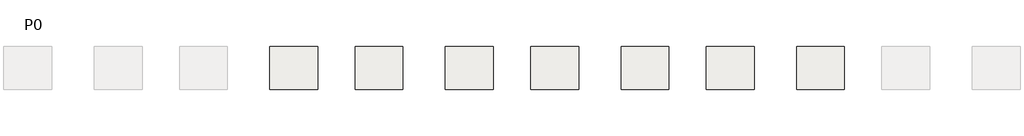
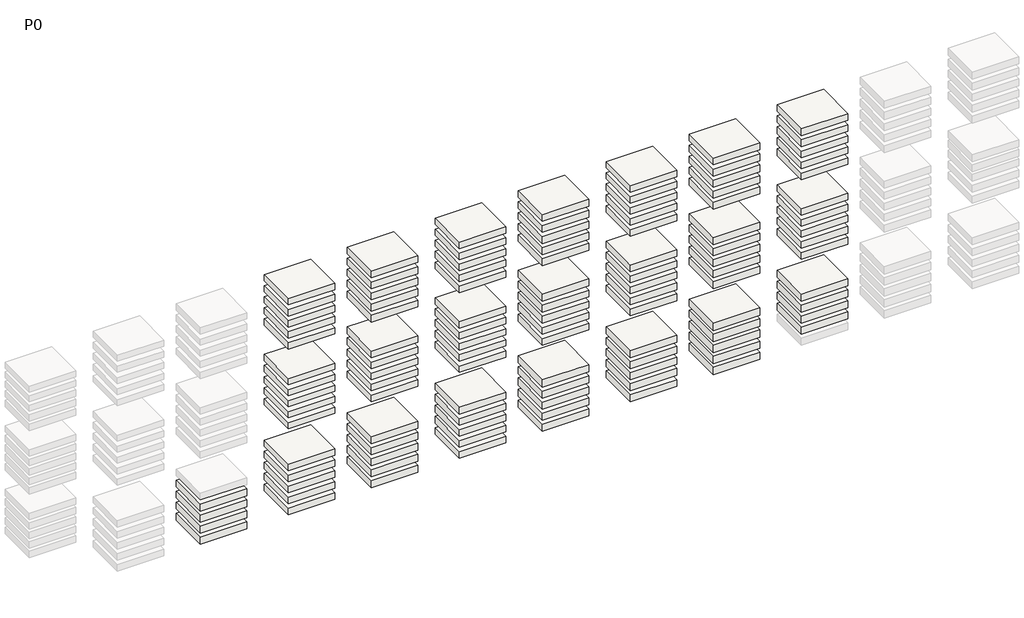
# One storey, part 8 of 11: 108 slabs.
"""IFC4 building model written with IfcOpenShell, lengths in millimetres."""

from ifc_helpers import new_model, si_unit, frame, origin, place, context, project, spatial, polyline, outline, extrude, element, save

model = new_model("IFC4")

# Units and contexts
model_context = context("Model", 3, world=origin())
ifc_project = project(units=[si_unit("LENGTHUNIT", "METRE", prefix="MILLI")], contexts=[model_context])

# Site, building, storey
site = spatial("IfcSite", under=ifc_project)
building = spatial("IfcBuilding", under=site)
storey = spatial("IfcBuildingStorey", under=building, Name="P0", Elevation=0.0)

# Slabs
placement = place(None, origin())
element("IfcSlab", 1, ObjectType="NNEH30 H10", at=placement, inside=storey, context=model_context, shape_type="SweptSolid", body=[
    extrude(outline(polyline([(212850.1564071, 1686.0689128), (212850.1564071, -1013.9310872), (209850.1564071, -1013.9310872), (209850.1564071, 1686.0689128), (212850.1564071, 1686.0689128)])), frame((0.0, 0.0, -19469.5323192), z_axis=(0.0, 0.0, 1.0), x_axis=(1.0, 0.0, 0.0)), (0.0, 0.0, 1.0), 458.0),
])
element("IfcSlab", 2, ObjectType="NNEH30 H10", at=placement, inside=storey, context=model_context, shape_type="SweptSolid", body=[
    extrude(outline(polyline([(212850.1564071, 1686.0689128), (212850.1564071, -1013.9310872), (209850.1564071, -1013.9310872), (209850.1564071, 1686.0689128), (212850.1564071, 1686.0689128)])), frame((0.0, 0.0, -20219.5323192), z_axis=(0.0, 0.0, 1.0), x_axis=(1.0, 0.0, 0.0)), (0.0, 0.0, 1.0), 458.0),
])
element("IfcSlab", 3, ObjectType="NNEH30 H10", at=placement, inside=storey, context=model_context, shape_type="SweptSolid", body=[
    extrude(outline(polyline([(212850.1564071, 1686.0689128), (212850.1564071, -1013.9310872), (209850.1564071, -1013.9310872), (209850.1564071, 1686.0689128), (212850.1564071, 1686.0689128)])), frame((0.0, 0.0, -20969.5323192), z_axis=(0.0, 0.0, 1.0), x_axis=(1.0, 0.0, 0.0)), (0.0, 0.0, 1.0), 458.0),
])
element("IfcSlab", 4, ObjectType="NNEH30 H10", at=placement, inside=storey, context=model_context, shape_type="SweptSolid", body=[
    extrude(outline(polyline([(212850.1564071, 1686.0689128), (212850.1564071, -1013.9310872), (209850.1564071, -1013.9310872), (209850.1564071, 1686.0689128), (212850.1564071, 1686.0689128)])), frame((0.0, 0.0, -21719.5323192), z_axis=(0.0, 0.0, 1.0), x_axis=(1.0, 0.0, 0.0)), (0.0, 0.0, 1.0), 458.0),
])
element("IfcSlab", 5, ObjectType="NNEH31 H5", at=placement, inside=storey, context=model_context, shape_type="SweptSolid", body=[
    extrude(outline(polyline([(218510.1564071, 1686.0689128), (218510.1564071, -1013.9310872), (215510.1564071, -1013.9310872), (215510.1564071, 1686.0689128), (218510.1564071, 1686.0689128)])), frame((0.0, 0.0, -7439.5324008), z_axis=(0.0, 0.0, 1.0), x_axis=(1.0, 0.0, 0.0)), (0.0, 0.0, 1.0), 418.0),
])
element("IfcSlab", 6, ObjectType="NNEH31 H5", at=placement, inside=storey, context=model_context, shape_type="SweptSolid", body=[
    extrude(outline(polyline([(218510.1564071, 1686.0689128), (218510.1564071, -1013.9310872), (215510.1564071, -1013.9310872), (215510.1564071, 1686.0689128), (218510.1564071, 1686.0689128)])), frame((0.0, 0.0, -8189.5323192), z_axis=(0.0, 0.0, 1.0), x_axis=(1.0, 0.0, 0.0)), (0.0, 0.0, 1.0), 418.0),
])
element("IfcSlab", 7, ObjectType="NNEH31 H5", at=placement, inside=storey, context=model_context, shape_type="SweptSolid", body=[
    extrude(outline(polyline([(218510.1564071, 1686.0689128), (218510.1564071, -1013.9310872), (215510.1564071, -1013.9310872), (215510.1564071, 1686.0689128), (218510.1564071, 1686.0689128)])), frame((0.0, 0.0, -8939.5323192), z_axis=(0.0, 0.0, 1.0), x_axis=(1.0, 0.0, 0.0)), (0.0, 0.0, 1.0), 418.0),
])
element("IfcSlab", 8, ObjectType="NNEH31 H5", at=placement, inside=storey, context=model_context, shape_type="SweptSolid", body=[
    extrude(outline(polyline([(218510.1564071, 1686.0689128), (218510.1564071, -1013.9310872), (215510.1564071, -1013.9310872), (215510.1564071, 1686.0689128), (218510.1564071, 1686.0689128)])), frame((0.0, 0.0, -9689.5323192), z_axis=(0.0, 0.0, 1.0), x_axis=(1.0, 0.0, 0.0)), (0.0, 0.0, 1.0), 418.0),
])
element("IfcSlab", 9, ObjectType="NNEH31 H5", at=placement, inside=storey, context=model_context, shape_type="SweptSolid", body=[
    extrude(outline(polyline([(218510.1564071, 1686.0689128), (218510.1564071, -1013.9310872), (215510.1564071, -1013.9310872), (215510.1564071, 1686.0689128), (218510.1564071, 1686.0689128)])), frame((0.0, 0.0, -10439.5324008), z_axis=(0.0, 0.0, 1.0), x_axis=(1.0, 0.0, 0.0)), (0.0, 0.0, 1.0), 418.0),
])
element("IfcSlab", 10, ObjectType="NNEH31 H6", at=placement, inside=storey, context=model_context, shape_type="SweptSolid", body=[
    extrude(outline(polyline([(218510.1564071, 1686.0689128), (218510.1564071, -1013.9310872), (215510.1564071, -1013.9310872), (215510.1564071, 1686.0689128), (218510.1564071, 1686.0689128)])), frame((0.0, 0.0, -12869.5322376), z_axis=(0.0, 0.0, 1.0), x_axis=(1.0, 0.0, 0.0)), (0.0, 0.0, 1.0), 428.0),
])
element("IfcSlab", 11, ObjectType="NNEH31 H6", at=placement, inside=storey, context=model_context, shape_type="SweptSolid", body=[
    extrude(outline(polyline([(218510.1564071, 1686.0689128), (218510.1564071, -1013.9310872), (215510.1564071, -1013.9310872), (215510.1564071, 1686.0689128), (218510.1564071, 1686.0689128)])), frame((0.0, 0.0, -13619.5322376), z_axis=(0.0, 0.0, 1.0), x_axis=(1.0, 0.0, 0.0)), (0.0, 0.0, 1.0), 428.0),
])
element("IfcSlab", 12, ObjectType="NNEH31 H6", at=placement, inside=storey, context=model_context, shape_type="SweptSolid", body=[
    extrude(outline(polyline([(218510.1564071, 1686.0689128), (218510.1564071, -1013.9310872), (215510.1564071, -1013.9310872), (215510.1564071, 1686.0689128), (218510.1564071, 1686.0689128)])), frame((0.0, 0.0, -14369.5322376), z_axis=(0.0, 0.0, 1.0), x_axis=(1.0, 0.0, 0.0)), (0.0, 0.0, 1.0), 428.0),
])
element("IfcSlab", 13, ObjectType="NNEH31 H6", at=placement, inside=storey, context=model_context, shape_type="SweptSolid", body=[
    extrude(outline(polyline([(218510.1564071, 1686.0689128), (218510.1564071, -1013.9310872), (215510.1564071, -1013.9310872), (215510.1564071, 1686.0689128), (218510.1564071, 1686.0689128)])), frame((0.0, 0.0, -15119.5322376), z_axis=(0.0, 0.0, 1.0), x_axis=(1.0, 0.0, 0.0)), (0.0, 0.0, 1.0), 428.0),
])
element("IfcSlab", 14, ObjectType="NNEH31 H6", at=placement, inside=storey, context=model_context, shape_type="SweptSolid", body=[
    extrude(outline(polyline([(218510.1564071, 1686.0689128), (218510.1564071, -1013.9310872), (215510.1564071, -1013.9310872), (215510.1564071, 1686.0689128), (218510.1564071, 1686.0689128)])), frame((0.0, 0.0, -15869.5322376), z_axis=(0.0, 0.0, 1.0), x_axis=(1.0, 0.0, 0.0)), (0.0, 0.0, 1.0), 428.0),
])
element("IfcSlab", 15, ObjectType="NNEH31 H7", at=placement, inside=storey, context=model_context, shape_type="SweptSolid", body=[
    extrude(outline(polyline([(218510.1564071, 1686.0689128), (218510.1564071, -1013.9310872), (215510.1564071, -1013.9310872), (215510.1564071, 1686.0689128), (218510.1564071, 1686.0689128)])), frame((0.0, 0.0, -18699.5323192), z_axis=(0.0, 0.0, 1.0), x_axis=(1.0, 0.0, 0.0)), (0.0, 0.0, 1.0), 438.0),
])
element("IfcSlab", 16, ObjectType="NNEH31 H7", at=placement, inside=storey, context=model_context, shape_type="SweptSolid", body=[
    extrude(outline(polyline([(218510.1564071, 1686.0689128), (218510.1564071, -1013.9310872), (215510.1564071, -1013.9310872), (215510.1564071, 1686.0689128), (218510.1564071, 1686.0689128)])), frame((0.0, 0.0, -19449.5323192), z_axis=(0.0, 0.0, 1.0), x_axis=(1.0, 0.0, 0.0)), (0.0, 0.0, 1.0), 438.0),
])
element("IfcSlab", 17, ObjectType="NNEH31 H7", at=placement, inside=storey, context=model_context, shape_type="SweptSolid", body=[
    extrude(outline(polyline([(218510.1564071, 1686.0689128), (218510.1564071, -1013.9310872), (215510.1564071, -1013.9310872), (215510.1564071, 1686.0689128), (218510.1564071, 1686.0689128)])), frame((0.0, 0.0, -20199.5323192), z_axis=(0.0, 0.0, 1.0), x_axis=(1.0, 0.0, 0.0)), (0.0, 0.0, 1.0), 438.0),
])
element("IfcSlab", 18, ObjectType="NNEH31 H7", at=placement, inside=storey, context=model_context, shape_type="SweptSolid", body=[
    extrude(outline(polyline([(218510.1564071, 1686.0689128), (218510.1564071, -1013.9310872), (215510.1564071, -1013.9310872), (215510.1564071, 1686.0689128), (218510.1564071, 1686.0689128)])), frame((0.0, 0.0, -20949.5323192), z_axis=(0.0, 0.0, 1.0), x_axis=(1.0, 0.0, 0.0)), (0.0, 0.0, 1.0), 438.0),
])
element("IfcSlab", 19, ObjectType="NNEH31 H7", at=placement, inside=storey, context=model_context, shape_type="SweptSolid", body=[
    extrude(outline(polyline([(218510.1564071, 1686.0689128), (218510.1564071, -1013.9310872), (215510.1564071, -1013.9310872), (215510.1564071, 1686.0689128), (218510.1564071, 1686.0689128)])), frame((0.0, 0.0, -21699.5323192), z_axis=(0.0, 0.0, 1.0), x_axis=(1.0, 0.0, 0.0)), (0.0, 0.0, 1.0), 438.0),
])
element("IfcSlab", 20, ObjectType="NNEH31 H8", at=placement, inside=storey, context=model_context, shape_type="SweptSolid", body=[
    extrude(outline(polyline([(223850.1564071, 1686.0689128), (223850.1564071, -1013.9310872), (220850.1564071, -1013.9310872), (220850.1564071, 1686.0689128), (223850.1564071, 1686.0689128)])), frame((0.0, 0.0, -7469.5323192), z_axis=(0.0, 0.0, 1.0), x_axis=(1.0, 0.0, 0.0)), (0.0, 0.0, 1.0), 448.0),
])
element("IfcSlab", 21, ObjectType="NNEH31 H8", at=placement, inside=storey, context=model_context, shape_type="SweptSolid", body=[
    extrude(outline(polyline([(223850.1564071, 1686.0689128), (223850.1564071, -1013.9310872), (220850.1564071, -1013.9310872), (220850.1564071, 1686.0689128), (223850.1564071, 1686.0689128)])), frame((0.0, 0.0, -8219.5323192), z_axis=(0.0, 0.0, 1.0), x_axis=(1.0, 0.0, 0.0)), (0.0, 0.0, 1.0), 448.0),
])
element("IfcSlab", 22, ObjectType="NNEH31 H8", at=placement, inside=storey, context=model_context, shape_type="SweptSolid", body=[
    extrude(outline(polyline([(223850.1564071, 1686.0689128), (223850.1564071, -1013.9310872), (220850.1564071, -1013.9310872), (220850.1564071, 1686.0689128), (223850.1564071, 1686.0689128)])), frame((0.0, 0.0, -8969.5323192), z_axis=(0.0, 0.0, 1.0), x_axis=(1.0, 0.0, 0.0)), (0.0, 0.0, 1.0), 448.0),
])
element("IfcSlab", 23, ObjectType="NNEH31 H8", at=placement, inside=storey, context=model_context, shape_type="SweptSolid", body=[
    extrude(outline(polyline([(223850.1564071, 1686.0689128), (223850.1564071, -1013.9310872), (220850.1564071, -1013.9310872), (220850.1564071, 1686.0689128), (223850.1564071, 1686.0689128)])), frame((0.0, 0.0, -9719.5323192), z_axis=(0.0, 0.0, 1.0), x_axis=(1.0, 0.0, 0.0)), (0.0, 0.0, 1.0), 448.0),
])
element("IfcSlab", 24, ObjectType="NNEH31 H8", at=placement, inside=storey, context=model_context, shape_type="SweptSolid", body=[
    extrude(outline(polyline([(223850.1564071, 1686.0689128), (223850.1564071, -1013.9310872), (220850.1564071, -1013.9310872), (220850.1564071, 1686.0689128), (223850.1564071, 1686.0689128)])), frame((0.0, 0.0, -10469.5324008), z_axis=(0.0, 0.0, 1.0), x_axis=(1.0, 0.0, 0.0)), (0.0, 0.0, 1.0), 448.0),
])
element("IfcSlab", 25, ObjectType="NNEH31 H9", at=placement, inside=storey, context=model_context, shape_type="SweptSolid", body=[
    extrude(outline(polyline([(223850.1564071, 1686.0689128), (223850.1564071, -1013.9310872), (220850.1564071, -1013.9310872), (220850.1564071, 1686.0689128), (223850.1564071, 1686.0689128)])), frame((0.0, 0.0, -12899.5322376), z_axis=(0.0, 0.0, 1.0), x_axis=(1.0, 0.0, 0.0)), (0.0, 0.0, 1.0), 458.0),
])
element("IfcSlab", 26, ObjectType="NNEH31 H9", at=placement, inside=storey, context=model_context, shape_type="SweptSolid", body=[
    extrude(outline(polyline([(223850.1564071, 1686.0689128), (223850.1564071, -1013.9310872), (220850.1564071, -1013.9310872), (220850.1564071, 1686.0689128), (223850.1564071, 1686.0689128)])), frame((0.0, 0.0, -13649.5322376), z_axis=(0.0, 0.0, 1.0), x_axis=(1.0, 0.0, 0.0)), (0.0, 0.0, 1.0), 458.0),
])
element("IfcSlab", 27, ObjectType="NNEH31 H9", at=placement, inside=storey, context=model_context, shape_type="SweptSolid", body=[
    extrude(outline(polyline([(223850.1564071, 1686.0689128), (223850.1564071, -1013.9310872), (220850.1564071, -1013.9310872), (220850.1564071, 1686.0689128), (223850.1564071, 1686.0689128)])), frame((0.0, 0.0, -14399.5322376), z_axis=(0.0, 0.0, 1.0), x_axis=(1.0, 0.0, 0.0)), (0.0, 0.0, 1.0), 458.0),
])
element("IfcSlab", 28, ObjectType="NNEH31 H9", at=placement, inside=storey, context=model_context, shape_type="SweptSolid", body=[
    extrude(outline(polyline([(223850.1564071, 1686.0689128), (223850.1564071, -1013.9310872), (220850.1564071, -1013.9310872), (220850.1564071, 1686.0689128), (223850.1564071, 1686.0689128)])), frame((0.0, 0.0, -15149.5322376), z_axis=(0.0, 0.0, 1.0), x_axis=(1.0, 0.0, 0.0)), (0.0, 0.0, 1.0), 458.0),
])
element("IfcSlab", 29, ObjectType="NNEH31 H9", at=placement, inside=storey, context=model_context, shape_type="SweptSolid", body=[
    extrude(outline(polyline([(223850.1564071, 1686.0689128), (223850.1564071, -1013.9310872), (220850.1564071, -1013.9310872), (220850.1564071, 1686.0689128), (223850.1564071, 1686.0689128)])), frame((0.0, 0.0, -15899.5322376), z_axis=(0.0, 0.0, 1.0), x_axis=(1.0, 0.0, 0.0)), (0.0, 0.0, 1.0), 458.0),
])
element("IfcSlab", 30, ObjectType="NNEH31 H10", at=placement, inside=storey, context=model_context, shape_type="SweptSolid", body=[
    extrude(outline(polyline([(223850.1564071, 1686.0689128), (223850.1564071, -1013.9310872), (220850.1564071, -1013.9310872), (220850.1564071, 1686.0689128), (223850.1564071, 1686.0689128)])), frame((0.0, 0.0, -18729.5323192), z_axis=(0.0, 0.0, 1.0), x_axis=(1.0, 0.0, 0.0)), (0.0, 0.0, 1.0), 468.0),
])
element("IfcSlab", 31, ObjectType="NNEH31 H10", at=placement, inside=storey, context=model_context, shape_type="SweptSolid", body=[
    extrude(outline(polyline([(223850.1564071, 1686.0689128), (223850.1564071, -1013.9310872), (220850.1564071, -1013.9310872), (220850.1564071, 1686.0689128), (223850.1564071, 1686.0689128)])), frame((0.0, 0.0, -19479.5323192), z_axis=(0.0, 0.0, 1.0), x_axis=(1.0, 0.0, 0.0)), (0.0, 0.0, 1.0), 468.0),
])
element("IfcSlab", 32, ObjectType="NNEH31 H10", at=placement, inside=storey, context=model_context, shape_type="SweptSolid", body=[
    extrude(outline(polyline([(223850.1564071, 1686.0689128), (223850.1564071, -1013.9310872), (220850.1564071, -1013.9310872), (220850.1564071, 1686.0689128), (223850.1564071, 1686.0689128)])), frame((0.0, 0.0, -20229.5323192), z_axis=(0.0, 0.0, 1.0), x_axis=(1.0, 0.0, 0.0)), (0.0, 0.0, 1.0), 468.0),
])
element("IfcSlab", 33, ObjectType="NNEH31 H10", at=placement, inside=storey, context=model_context, shape_type="SweptSolid", body=[
    extrude(outline(polyline([(223850.1564071, 1686.0689128), (223850.1564071, -1013.9310872), (220850.1564071, -1013.9310872), (220850.1564071, 1686.0689128), (223850.1564071, 1686.0689128)])), frame((0.0, 0.0, -20979.5323192), z_axis=(0.0, 0.0, 1.0), x_axis=(1.0, 0.0, 0.0)), (0.0, 0.0, 1.0), 468.0),
])
element("IfcSlab", 34, ObjectType="NNEH31 H10", at=placement, inside=storey, context=model_context, shape_type="SweptSolid", body=[
    extrude(outline(polyline([(223850.1564071, 1686.0689128), (223850.1564071, -1013.9310872), (220850.1564071, -1013.9310872), (220850.1564071, 1686.0689128), (223850.1564071, 1686.0689128)])), frame((0.0, 0.0, -21729.5323192), z_axis=(0.0, 0.0, 1.0), x_axis=(1.0, 0.0, 0.0)), (0.0, 0.0, 1.0), 468.0),
])
element("IfcSlab", 35, ObjectType="NNEH32 H5", at=placement, inside=storey, context=model_context, shape_type="SweptSolid", body=[
    extrude(outline(polyline([(229510.1564071, 1686.0689128), (229510.1564071, -1013.9310872), (226510.1564071, -1013.9310872), (226510.1564071, 1686.0689128), (229510.1564071, 1686.0689128)])), frame((0.0, 0.0, -7449.5324008), z_axis=(0.0, 0.0, 1.0), x_axis=(1.0, 0.0, 0.0)), (0.0, 0.0, 1.0), 428.0),
])
element("IfcSlab", 36, ObjectType="NNEH32 H5", at=placement, inside=storey, context=model_context, shape_type="SweptSolid", body=[
    extrude(outline(polyline([(229510.1564071, 1686.0689128), (229510.1564071, -1013.9310872), (226510.1564071, -1013.9310872), (226510.1564071, 1686.0689128), (229510.1564071, 1686.0689128)])), frame((0.0, 0.0, -8199.5323192), z_axis=(0.0, 0.0, 1.0), x_axis=(1.0, 0.0, 0.0)), (0.0, 0.0, 1.0), 428.0),
])
element("IfcSlab", 37, ObjectType="NNEH32 H5", at=placement, inside=storey, context=model_context, shape_type="SweptSolid", body=[
    extrude(outline(polyline([(229510.1564071, 1686.0689128), (229510.1564071, -1013.9310872), (226510.1564071, -1013.9310872), (226510.1564071, 1686.0689128), (229510.1564071, 1686.0689128)])), frame((0.0, 0.0, -8949.5323192), z_axis=(0.0, 0.0, 1.0), x_axis=(1.0, 0.0, 0.0)), (0.0, 0.0, 1.0), 428.0),
])
element("IfcSlab", 38, ObjectType="NNEH32 H5", at=placement, inside=storey, context=model_context, shape_type="SweptSolid", body=[
    extrude(outline(polyline([(229510.1564071, 1686.0689128), (229510.1564071, -1013.9310872), (226510.1564071, -1013.9310872), (226510.1564071, 1686.0689128), (229510.1564071, 1686.0689128)])), frame((0.0, 0.0, -9699.5323192), z_axis=(0.0, 0.0, 1.0), x_axis=(1.0, 0.0, 0.0)), (0.0, 0.0, 1.0), 428.0),
])
element("IfcSlab", 39, ObjectType="NNEH32 H5", at=placement, inside=storey, context=model_context, shape_type="SweptSolid", body=[
    extrude(outline(polyline([(229510.1564071, 1686.0689128), (229510.1564071, -1013.9310872), (226510.1564071, -1013.9310872), (226510.1564071, 1686.0689128), (229510.1564071, 1686.0689128)])), frame((0.0, 0.0, -10449.5324008), z_axis=(0.0, 0.0, 1.0), x_axis=(1.0, 0.0, 0.0)), (0.0, 0.0, 1.0), 428.0),
])
element("IfcSlab", 40, ObjectType="NNEH32 H6", at=placement, inside=storey, context=model_context, shape_type="SweptSolid", body=[
    extrude(outline(polyline([(229510.1564071, 1686.0689128), (229510.1564071, -1013.9310872), (226510.1564071, -1013.9310872), (226510.1564071, 1686.0689128), (229510.1564071, 1686.0689128)])), frame((0.0, 0.0, -12879.5322376), z_axis=(0.0, 0.0, 1.0), x_axis=(1.0, 0.0, 0.0)), (0.0, 0.0, 1.0), 438.0),
])
element("IfcSlab", 41, ObjectType="NNEH32 H6", at=placement, inside=storey, context=model_context, shape_type="SweptSolid", body=[
    extrude(outline(polyline([(229510.1564071, 1686.0689128), (229510.1564071, -1013.9310872), (226510.1564071, -1013.9310872), (226510.1564071, 1686.0689128), (229510.1564071, 1686.0689128)])), frame((0.0, 0.0, -13629.5322376), z_axis=(0.0, 0.0, 1.0), x_axis=(1.0, 0.0, 0.0)), (0.0, 0.0, 1.0), 438.0),
])
element("IfcSlab", 42, ObjectType="NNEH32 H6", at=placement, inside=storey, context=model_context, shape_type="SweptSolid", body=[
    extrude(outline(polyline([(229510.1564071, 1686.0689128), (229510.1564071, -1013.9310872), (226510.1564071, -1013.9310872), (226510.1564071, 1686.0689128), (229510.1564071, 1686.0689128)])), frame((0.0, 0.0, -14379.5322376), z_axis=(0.0, 0.0, 1.0), x_axis=(1.0, 0.0, 0.0)), (0.0, 0.0, 1.0), 438.0),
])
element("IfcSlab", 43, ObjectType="NNEH32 H6", at=placement, inside=storey, context=model_context, shape_type="SweptSolid", body=[
    extrude(outline(polyline([(229510.1564071, 1686.0689128), (229510.1564071, -1013.9310872), (226510.1564071, -1013.9310872), (226510.1564071, 1686.0689128), (229510.1564071, 1686.0689128)])), frame((0.0, 0.0, -15129.5322376), z_axis=(0.0, 0.0, 1.0), x_axis=(1.0, 0.0, 0.0)), (0.0, 0.0, 1.0), 438.0),
])
element("IfcSlab", 44, ObjectType="NNEH32 H6", at=placement, inside=storey, context=model_context, shape_type="SweptSolid", body=[
    extrude(outline(polyline([(229510.1564071, 1686.0689128), (229510.1564071, -1013.9310872), (226510.1564071, -1013.9310872), (226510.1564071, 1686.0689128), (229510.1564071, 1686.0689128)])), frame((0.0, 0.0, -15879.5322376), z_axis=(0.0, 0.0, 1.0), x_axis=(1.0, 0.0, 0.0)), (0.0, 0.0, 1.0), 438.0),
])
element("IfcSlab", 45, ObjectType="NNEH32 H7", at=placement, inside=storey, context=model_context, shape_type="SweptSolid", body=[
    extrude(outline(polyline([(229510.1564071, 1686.0689128), (229510.1564071, -1013.9310872), (226510.1564071, -1013.9310872), (226510.1564071, 1686.0689128), (229510.1564071, 1686.0689128)])), frame((0.0, 0.0, -18709.5323192), z_axis=(0.0, 0.0, 1.0), x_axis=(1.0, 0.0, 0.0)), (0.0, 0.0, 1.0), 448.0),
])
element("IfcSlab", 46, ObjectType="NNEH32 H7", at=placement, inside=storey, context=model_context, shape_type="SweptSolid", body=[
    extrude(outline(polyline([(229510.1564071, 1686.0689128), (229510.1564071, -1013.9310872), (226510.1564071, -1013.9310872), (226510.1564071, 1686.0689128), (229510.1564071, 1686.0689128)])), frame((0.0, 0.0, -19459.5323192), z_axis=(0.0, 0.0, 1.0), x_axis=(1.0, 0.0, 0.0)), (0.0, 0.0, 1.0), 448.0),
])
element("IfcSlab", 47, ObjectType="NNEH32 H7", at=placement, inside=storey, context=model_context, shape_type="SweptSolid", body=[
    extrude(outline(polyline([(229510.1564071, 1686.0689128), (229510.1564071, -1013.9310872), (226510.1564071, -1013.9310872), (226510.1564071, 1686.0689128), (229510.1564071, 1686.0689128)])), frame((0.0, 0.0, -20209.5323192), z_axis=(0.0, 0.0, 1.0), x_axis=(1.0, 0.0, 0.0)), (0.0, 0.0, 1.0), 448.0),
])
element("IfcSlab", 48, ObjectType="NNEH32 H7", at=placement, inside=storey, context=model_context, shape_type="SweptSolid", body=[
    extrude(outline(polyline([(229510.1564071, 1686.0689128), (229510.1564071, -1013.9310872), (226510.1564071, -1013.9310872), (226510.1564071, 1686.0689128), (229510.1564071, 1686.0689128)])), frame((0.0, 0.0, -20959.5323192), z_axis=(0.0, 0.0, 1.0), x_axis=(1.0, 0.0, 0.0)), (0.0, 0.0, 1.0), 448.0),
])
element("IfcSlab", 49, ObjectType="NNEH32 H7", at=placement, inside=storey, context=model_context, shape_type="SweptSolid", body=[
    extrude(outline(polyline([(229510.1564071, 1686.0689128), (229510.1564071, -1013.9310872), (226510.1564071, -1013.9310872), (226510.1564071, 1686.0689128), (229510.1564071, 1686.0689128)])), frame((0.0, 0.0, -21709.5323192), z_axis=(0.0, 0.0, 1.0), x_axis=(1.0, 0.0, 0.0)), (0.0, 0.0, 1.0), 448.0),
])
element("IfcSlab", 50, ObjectType="NNEH32 H8", at=placement, inside=storey, context=model_context, shape_type="SweptSolid", body=[
    extrude(outline(polyline([(234850.1564071, 1686.0689128), (234850.1564071, -1013.9310872), (231850.1564071, -1013.9310872), (231850.1564071, 1686.0689128), (234850.1564071, 1686.0689128)])), frame((0.0, 0.0, -7479.5323192), z_axis=(0.0, 0.0, 1.0), x_axis=(1.0, 0.0, 0.0)), (0.0, 0.0, 1.0), 458.0),
])
element("IfcSlab", 51, ObjectType="NNEH32 H8", at=placement, inside=storey, context=model_context, shape_type="SweptSolid", body=[
    extrude(outline(polyline([(234850.1564071, 1686.0689128), (234850.1564071, -1013.9310872), (231850.1564071, -1013.9310872), (231850.1564071, 1686.0689128), (234850.1564071, 1686.0689128)])), frame((0.0, 0.0, -8229.5323192), z_axis=(0.0, 0.0, 1.0), x_axis=(1.0, 0.0, 0.0)), (0.0, 0.0, 1.0), 458.0),
])
element("IfcSlab", 52, ObjectType="NNEH32 H8", at=placement, inside=storey, context=model_context, shape_type="SweptSolid", body=[
    extrude(outline(polyline([(234850.1564071, 1686.0689128), (234850.1564071, -1013.9310872), (231850.1564071, -1013.9310872), (231850.1564071, 1686.0689128), (234850.1564071, 1686.0689128)])), frame((0.0, 0.0, -8979.5323192), z_axis=(0.0, 0.0, 1.0), x_axis=(1.0, 0.0, 0.0)), (0.0, 0.0, 1.0), 458.0),
])
element("IfcSlab", 53, ObjectType="NNEH32 H8", at=placement, inside=storey, context=model_context, shape_type="SweptSolid", body=[
    extrude(outline(polyline([(234850.1564071, 1686.0689128), (234850.1564071, -1013.9310872), (231850.1564071, -1013.9310872), (231850.1564071, 1686.0689128), (234850.1564071, 1686.0689128)])), frame((0.0, 0.0, -9729.5323192), z_axis=(0.0, 0.0, 1.0), x_axis=(1.0, 0.0, 0.0)), (0.0, 0.0, 1.0), 458.0),
])
element("IfcSlab", 54, ObjectType="NNEH32 H8", at=placement, inside=storey, context=model_context, shape_type="SweptSolid", body=[
    extrude(outline(polyline([(234850.1564071, 1686.0689128), (234850.1564071, -1013.9310872), (231850.1564071, -1013.9310872), (231850.1564071, 1686.0689128), (234850.1564071, 1686.0689128)])), frame((0.0, 0.0, -10479.5324008), z_axis=(0.0, 0.0, 1.0), x_axis=(1.0, 0.0, 0.0)), (0.0, 0.0, 1.0), 458.0),
])
element("IfcSlab", 55, ObjectType="NNEH32 H9", at=placement, inside=storey, context=model_context, shape_type="SweptSolid", body=[
    extrude(outline(polyline([(234850.1564071, 1686.0689128), (234850.1564071, -1013.9310872), (231850.1564071, -1013.9310872), (231850.1564071, 1686.0689128), (234850.1564071, 1686.0689128)])), frame((0.0, 0.0, -12909.5322376), z_axis=(0.0, 0.0, 1.0), x_axis=(1.0, 0.0, 0.0)), (0.0, 0.0, 1.0), 468.0),
])
element("IfcSlab", 56, ObjectType="NNEH32 H9", at=placement, inside=storey, context=model_context, shape_type="SweptSolid", body=[
    extrude(outline(polyline([(234850.1564071, 1686.0689128), (234850.1564071, -1013.9310872), (231850.1564071, -1013.9310872), (231850.1564071, 1686.0689128), (234850.1564071, 1686.0689128)])), frame((0.0, 0.0, -13659.5322376), z_axis=(0.0, 0.0, 1.0), x_axis=(1.0, 0.0, 0.0)), (0.0, 0.0, 1.0), 468.0),
])
element("IfcSlab", 57, ObjectType="NNEH32 H9", at=placement, inside=storey, context=model_context, shape_type="SweptSolid", body=[
    extrude(outline(polyline([(234850.1564071, 1686.0689128), (234850.1564071, -1013.9310872), (231850.1564071, -1013.9310872), (231850.1564071, 1686.0689128), (234850.1564071, 1686.0689128)])), frame((0.0, 0.0, -14409.5322376), z_axis=(0.0, 0.0, 1.0), x_axis=(1.0, 0.0, 0.0)), (0.0, 0.0, 1.0), 468.0),
])
element("IfcSlab", 58, ObjectType="NNEH32 H9", at=placement, inside=storey, context=model_context, shape_type="SweptSolid", body=[
    extrude(outline(polyline([(234850.1564071, 1686.0689128), (234850.1564071, -1013.9310872), (231850.1564071, -1013.9310872), (231850.1564071, 1686.0689128), (234850.1564071, 1686.0689128)])), frame((0.0, 0.0, -15159.5322376), z_axis=(0.0, 0.0, 1.0), x_axis=(1.0, 0.0, 0.0)), (0.0, 0.0, 1.0), 468.0),
])
element("IfcSlab", 59, ObjectType="NNEH32 H9", at=placement, inside=storey, context=model_context, shape_type="SweptSolid", body=[
    extrude(outline(polyline([(234850.1564071, 1686.0689128), (234850.1564071, -1013.9310872), (231850.1564071, -1013.9310872), (231850.1564071, 1686.0689128), (234850.1564071, 1686.0689128)])), frame((0.0, 0.0, -15909.5322376), z_axis=(0.0, 0.0, 1.0), x_axis=(1.0, 0.0, 0.0)), (0.0, 0.0, 1.0), 468.0),
])
element("IfcSlab", 60, ObjectType="NNEH32 H10", at=placement, inside=storey, context=model_context, shape_type="SweptSolid", body=[
    extrude(outline(polyline([(234850.1564071, 1686.0689128), (234850.1564071, -1013.9310872), (231850.1564071, -1013.9310872), (231850.1564071, 1686.0689128), (234850.1564071, 1686.0689128)])), frame((0.0, 0.0, -18739.5323192), z_axis=(0.0, 0.0, 1.0), x_axis=(1.0, 0.0, 0.0)), (0.0, 0.0, 1.0), 478.0),
])
element("IfcSlab", 61, ObjectType="NNEH32 H10", at=placement, inside=storey, context=model_context, shape_type="SweptSolid", body=[
    extrude(outline(polyline([(234850.1564071, 1686.0689128), (234850.1564071, -1013.9310872), (231850.1564071, -1013.9310872), (231850.1564071, 1686.0689128), (234850.1564071, 1686.0689128)])), frame((0.0, 0.0, -19489.5323192), z_axis=(0.0, 0.0, 1.0), x_axis=(1.0, 0.0, 0.0)), (0.0, 0.0, 1.0), 478.0),
])
element("IfcSlab", 62, ObjectType="NNEH32 H10", at=placement, inside=storey, context=model_context, shape_type="SweptSolid", body=[
    extrude(outline(polyline([(234850.1564071, 1686.0689128), (234850.1564071, -1013.9310872), (231850.1564071, -1013.9310872), (231850.1564071, 1686.0689128), (234850.1564071, 1686.0689128)])), frame((0.0, 0.0, -20239.5323192), z_axis=(0.0, 0.0, 1.0), x_axis=(1.0, 0.0, 0.0)), (0.0, 0.0, 1.0), 478.0),
])
element("IfcSlab", 63, ObjectType="NNEH32 H10", at=placement, inside=storey, context=model_context, shape_type="SweptSolid", body=[
    extrude(outline(polyline([(234850.1564071, 1686.0689128), (234850.1564071, -1013.9310872), (231850.1564071, -1013.9310872), (231850.1564071, 1686.0689128), (234850.1564071, 1686.0689128)])), frame((0.0, 0.0, -20989.5323192), z_axis=(0.0, 0.0, 1.0), x_axis=(1.0, 0.0, 0.0)), (0.0, 0.0, 1.0), 478.0),
])
element("IfcSlab", 64, ObjectType="NNEH32 H10", at=placement, inside=storey, context=model_context, shape_type="SweptSolid", body=[
    extrude(outline(polyline([(234850.1564071, 1686.0689128), (234850.1564071, -1013.9310872), (231850.1564071, -1013.9310872), (231850.1564071, 1686.0689128), (234850.1564071, 1686.0689128)])), frame((0.0, 0.0, -21739.5323192), z_axis=(0.0, 0.0, 1.0), x_axis=(1.0, 0.0, 0.0)), (0.0, 0.0, 1.0), 478.0),
])
element("IfcSlab", 65, ObjectType="NNEH33 H5", at=placement, inside=storey, context=model_context, shape_type="SweptSolid", body=[
    extrude(outline(polyline([(240510.1564071, 1686.0689128), (240510.1564071, -1013.9310872), (237510.1564071, -1013.9310872), (237510.1564071, 1686.0689128), (240510.1564071, 1686.0689128)])), frame((0.0, 0.0, -7459.5324008), z_axis=(0.0, 0.0, 1.0), x_axis=(1.0, 0.0, 0.0)), (0.0, 0.0, 1.0), 438.0),
])
element("IfcSlab", 66, ObjectType="NNEH33 H5", at=placement, inside=storey, context=model_context, shape_type="SweptSolid", body=[
    extrude(outline(polyline([(240510.1564071, 1686.0689128), (240510.1564071, -1013.9310872), (237510.1564071, -1013.9310872), (237510.1564071, 1686.0689128), (240510.1564071, 1686.0689128)])), frame((0.0, 0.0, -8209.5323192), z_axis=(0.0, 0.0, 1.0), x_axis=(1.0, 0.0, 0.0)), (0.0, 0.0, 1.0), 438.0),
])
element("IfcSlab", 67, ObjectType="NNEH33 H5", at=placement, inside=storey, context=model_context, shape_type="SweptSolid", body=[
    extrude(outline(polyline([(240510.1564071, 1686.0689128), (240510.1564071, -1013.9310872), (237510.1564071, -1013.9310872), (237510.1564071, 1686.0689128), (240510.1564071, 1686.0689128)])), frame((0.0, 0.0, -8959.5323192), z_axis=(0.0, 0.0, 1.0), x_axis=(1.0, 0.0, 0.0)), (0.0, 0.0, 1.0), 438.0),
])
element("IfcSlab", 68, ObjectType="NNEH33 H5", at=placement, inside=storey, context=model_context, shape_type="SweptSolid", body=[
    extrude(outline(polyline([(240510.1564071, 1686.0689128), (240510.1564071, -1013.9310872), (237510.1564071, -1013.9310872), (237510.1564071, 1686.0689128), (240510.1564071, 1686.0689128)])), frame((0.0, 0.0, -9709.5323192), z_axis=(0.0, 0.0, 1.0), x_axis=(1.0, 0.0, 0.0)), (0.0, 0.0, 1.0), 438.0),
])
element("IfcSlab", 69, ObjectType="NNEH33 H5", at=placement, inside=storey, context=model_context, shape_type="SweptSolid", body=[
    extrude(outline(polyline([(240510.1564071, 1686.0689128), (240510.1564071, -1013.9310872), (237510.1564071, -1013.9310872), (237510.1564071, 1686.0689128), (240510.1564071, 1686.0689128)])), frame((0.0, 0.0, -10459.5324008), z_axis=(0.0, 0.0, 1.0), x_axis=(1.0, 0.0, 0.0)), (0.0, 0.0, 1.0), 438.0),
])
element("IfcSlab", 70, ObjectType="NNEH33 H6", at=placement, inside=storey, context=model_context, shape_type="SweptSolid", body=[
    extrude(outline(polyline([(240510.1564071, 1686.0689128), (240510.1564071, -1013.9310872), (237510.1564071, -1013.9310872), (237510.1564071, 1686.0689128), (240510.1564071, 1686.0689128)])), frame((0.0, 0.0, -12889.5322376), z_axis=(0.0, 0.0, 1.0), x_axis=(1.0, 0.0, 0.0)), (0.0, 0.0, 1.0), 448.0),
])
element("IfcSlab", 71, ObjectType="NNEH33 H6", at=placement, inside=storey, context=model_context, shape_type="SweptSolid", body=[
    extrude(outline(polyline([(240510.1564071, 1686.0689128), (240510.1564071, -1013.9310872), (237510.1564071, -1013.9310872), (237510.1564071, 1686.0689128), (240510.1564071, 1686.0689128)])), frame((0.0, 0.0, -13639.5322376), z_axis=(0.0, 0.0, 1.0), x_axis=(1.0, 0.0, 0.0)), (0.0, 0.0, 1.0), 448.0),
])
element("IfcSlab", 72, ObjectType="NNEH33 H6", at=placement, inside=storey, context=model_context, shape_type="SweptSolid", body=[
    extrude(outline(polyline([(240510.1564071, 1686.0689128), (240510.1564071, -1013.9310872), (237510.1564071, -1013.9310872), (237510.1564071, 1686.0689128), (240510.1564071, 1686.0689128)])), frame((0.0, 0.0, -14389.5322376), z_axis=(0.0, 0.0, 1.0), x_axis=(1.0, 0.0, 0.0)), (0.0, 0.0, 1.0), 448.0),
])
element("IfcSlab", 73, ObjectType="NNEH33 H6", at=placement, inside=storey, context=model_context, shape_type="SweptSolid", body=[
    extrude(outline(polyline([(240510.1564071, 1686.0689128), (240510.1564071, -1013.9310872), (237510.1564071, -1013.9310872), (237510.1564071, 1686.0689128), (240510.1564071, 1686.0689128)])), frame((0.0, 0.0, -15139.5322376), z_axis=(0.0, 0.0, 1.0), x_axis=(1.0, 0.0, 0.0)), (0.0, 0.0, 1.0), 448.0),
])
element("IfcSlab", 74, ObjectType="NNEH33 H6", at=placement, inside=storey, context=model_context, shape_type="SweptSolid", body=[
    extrude(outline(polyline([(240510.1564071, 1686.0689128), (240510.1564071, -1013.9310872), (237510.1564071, -1013.9310872), (237510.1564071, 1686.0689128), (240510.1564071, 1686.0689128)])), frame((0.0, 0.0, -15889.5322376), z_axis=(0.0, 0.0, 1.0), x_axis=(1.0, 0.0, 0.0)), (0.0, 0.0, 1.0), 448.0),
])
element("IfcSlab", 75, ObjectType="NNEH33 H7", at=placement, inside=storey, context=model_context, shape_type="SweptSolid", body=[
    extrude(outline(polyline([(240510.1564071, 1686.0689128), (240510.1564071, -1013.9310872), (237510.1564071, -1013.9310872), (237510.1564071, 1686.0689128), (240510.1564071, 1686.0689128)])), frame((0.0, 0.0, -18719.5323192), z_axis=(0.0, 0.0, 1.0), x_axis=(1.0, 0.0, 0.0)), (0.0, 0.0, 1.0), 458.0),
])
element("IfcSlab", 76, ObjectType="NNEH33 H7", at=placement, inside=storey, context=model_context, shape_type="SweptSolid", body=[
    extrude(outline(polyline([(240510.1564071, 1686.0689128), (240510.1564071, -1013.9310872), (237510.1564071, -1013.9310872), (237510.1564071, 1686.0689128), (240510.1564071, 1686.0689128)])), frame((0.0, 0.0, -19469.5323192), z_axis=(0.0, 0.0, 1.0), x_axis=(1.0, 0.0, 0.0)), (0.0, 0.0, 1.0), 458.0),
])
element("IfcSlab", 77, ObjectType="NNEH33 H7", at=placement, inside=storey, context=model_context, shape_type="SweptSolid", body=[
    extrude(outline(polyline([(240510.1564071, 1686.0689128), (240510.1564071, -1013.9310872), (237510.1564071, -1013.9310872), (237510.1564071, 1686.0689128), (240510.1564071, 1686.0689128)])), frame((0.0, 0.0, -20219.5323192), z_axis=(0.0, 0.0, 1.0), x_axis=(1.0, 0.0, 0.0)), (0.0, 0.0, 1.0), 458.0),
])
element("IfcSlab", 78, ObjectType="NNEH33 H7", at=placement, inside=storey, context=model_context, shape_type="SweptSolid", body=[
    extrude(outline(polyline([(240510.1564071, 1686.0689128), (240510.1564071, -1013.9310872), (237510.1564071, -1013.9310872), (237510.1564071, 1686.0689128), (240510.1564071, 1686.0689128)])), frame((0.0, 0.0, -20969.5323192), z_axis=(0.0, 0.0, 1.0), x_axis=(1.0, 0.0, 0.0)), (0.0, 0.0, 1.0), 458.0),
])
element("IfcSlab", 79, ObjectType="NNEH33 H7", at=placement, inside=storey, context=model_context, shape_type="SweptSolid", body=[
    extrude(outline(polyline([(240510.1564071, 1686.0689128), (240510.1564071, -1013.9310872), (237510.1564071, -1013.9310872), (237510.1564071, 1686.0689128), (240510.1564071, 1686.0689128)])), frame((0.0, 0.0, -21719.5323192), z_axis=(0.0, 0.0, 1.0), x_axis=(1.0, 0.0, 0.0)), (0.0, 0.0, 1.0), 458.0),
])
element("IfcSlab", 80, ObjectType="NNEH33 H8", at=placement, inside=storey, context=model_context, shape_type="SweptSolid", body=[
    extrude(outline(polyline([(245850.1564071, 1686.0689128), (245850.1564071, -1013.9310872), (242850.1564071, -1013.9310872), (242850.1564071, 1686.0689128), (245850.1564071, 1686.0689128)])), frame((0.0, 0.0, -7489.5323192), z_axis=(0.0, 0.0, 1.0), x_axis=(1.0, 0.0, 0.0)), (0.0, 0.0, 1.0), 468.0),
])
element("IfcSlab", 81, ObjectType="NNEH33 H8", at=placement, inside=storey, context=model_context, shape_type="SweptSolid", body=[
    extrude(outline(polyline([(245850.1564071, 1686.0689128), (245850.1564071, -1013.9310872), (242850.1564071, -1013.9310872), (242850.1564071, 1686.0689128), (245850.1564071, 1686.0689128)])), frame((0.0, 0.0, -8239.5323192), z_axis=(0.0, 0.0, 1.0), x_axis=(1.0, 0.0, 0.0)), (0.0, 0.0, 1.0), 468.0),
])
element("IfcSlab", 82, ObjectType="NNEH33 H8", at=placement, inside=storey, context=model_context, shape_type="SweptSolid", body=[
    extrude(outline(polyline([(245850.1564071, 1686.0689128), (245850.1564071, -1013.9310872), (242850.1564071, -1013.9310872), (242850.1564071, 1686.0689128), (245850.1564071, 1686.0689128)])), frame((0.0, 0.0, -8989.5323192), z_axis=(0.0, 0.0, 1.0), x_axis=(1.0, 0.0, 0.0)), (0.0, 0.0, 1.0), 468.0),
])
element("IfcSlab", 83, ObjectType="NNEH33 H8", at=placement, inside=storey, context=model_context, shape_type="SweptSolid", body=[
    extrude(outline(polyline([(245850.1564071, 1686.0689128), (245850.1564071, -1013.9310872), (242850.1564071, -1013.9310872), (242850.1564071, 1686.0689128), (245850.1564071, 1686.0689128)])), frame((0.0, 0.0, -9739.5323192), z_axis=(0.0, 0.0, 1.0), x_axis=(1.0, 0.0, 0.0)), (0.0, 0.0, 1.0), 468.0),
])
element("IfcSlab", 84, ObjectType="NNEH33 H8", at=placement, inside=storey, context=model_context, shape_type="SweptSolid", body=[
    extrude(outline(polyline([(245850.1564071, 1686.0689128), (245850.1564071, -1013.9310872), (242850.1564071, -1013.9310872), (242850.1564071, 1686.0689128), (245850.1564071, 1686.0689128)])), frame((0.0, 0.0, -10489.5324008), z_axis=(0.0, 0.0, 1.0), x_axis=(1.0, 0.0, 0.0)), (0.0, 0.0, 1.0), 468.0),
])
element("IfcSlab", 85, ObjectType="NNEH33 H9", at=placement, inside=storey, context=model_context, shape_type="SweptSolid", body=[
    extrude(outline(polyline([(245850.1564071, 1686.0689128), (245850.1564071, -1013.9310872), (242850.1564071, -1013.9310872), (242850.1564071, 1686.0689128), (245850.1564071, 1686.0689128)])), frame((0.0, 0.0, -12919.5322376), z_axis=(0.0, 0.0, 1.0), x_axis=(1.0, 0.0, 0.0)), (0.0, 0.0, 1.0), 478.0),
])
element("IfcSlab", 86, ObjectType="NNEH33 H9", at=placement, inside=storey, context=model_context, shape_type="SweptSolid", body=[
    extrude(outline(polyline([(245850.1564071, 1686.0689128), (245850.1564071, -1013.9310872), (242850.1564071, -1013.9310872), (242850.1564071, 1686.0689128), (245850.1564071, 1686.0689128)])), frame((0.0, 0.0, -13669.5322376), z_axis=(0.0, 0.0, 1.0), x_axis=(1.0, 0.0, 0.0)), (0.0, 0.0, 1.0), 478.0),
])
element("IfcSlab", 87, ObjectType="NNEH33 H9", at=placement, inside=storey, context=model_context, shape_type="SweptSolid", body=[
    extrude(outline(polyline([(245850.1564071, 1686.0689128), (245850.1564071, -1013.9310872), (242850.1564071, -1013.9310872), (242850.1564071, 1686.0689128), (245850.1564071, 1686.0689128)])), frame((0.0, 0.0, -14419.5322376), z_axis=(0.0, 0.0, 1.0), x_axis=(1.0, 0.0, 0.0)), (0.0, 0.0, 1.0), 478.0),
])
element("IfcSlab", 88, ObjectType="NNEH33 H9", at=placement, inside=storey, context=model_context, shape_type="SweptSolid", body=[
    extrude(outline(polyline([(245850.1564071, 1686.0689128), (245850.1564071, -1013.9310872), (242850.1564071, -1013.9310872), (242850.1564071, 1686.0689128), (245850.1564071, 1686.0689128)])), frame((0.0, 0.0, -15169.5322376), z_axis=(0.0, 0.0, 1.0), x_axis=(1.0, 0.0, 0.0)), (0.0, 0.0, 1.0), 478.0),
])
element("IfcSlab", 89, ObjectType="NNEH33 H9", at=placement, inside=storey, context=model_context, shape_type="SweptSolid", body=[
    extrude(outline(polyline([(245850.1564071, 1686.0689128), (245850.1564071, -1013.9310872), (242850.1564071, -1013.9310872), (242850.1564071, 1686.0689128), (245850.1564071, 1686.0689128)])), frame((0.0, 0.0, -15919.5322376), z_axis=(0.0, 0.0, 1.0), x_axis=(1.0, 0.0, 0.0)), (0.0, 0.0, 1.0), 478.0),
])
element("IfcSlab", 90, ObjectType="NNEH33 H10", at=placement, inside=storey, context=model_context, shape_type="SweptSolid", body=[
    extrude(outline(polyline([(245850.1564071, 1686.0689128), (245850.1564071, -1013.9310872), (242850.1564071, -1013.9310872), (242850.1564071, 1686.0689128), (245850.1564071, 1686.0689128)])), frame((0.0, 0.0, -18749.5323192), z_axis=(0.0, 0.0, 1.0), x_axis=(1.0, 0.0, 0.0)), (0.0, 0.0, 1.0), 488.0),
])
element("IfcSlab", 91, ObjectType="NNEH33 H10", at=placement, inside=storey, context=model_context, shape_type="SweptSolid", body=[
    extrude(outline(polyline([(245850.1564071, 1686.0689128), (245850.1564071, -1013.9310872), (242850.1564071, -1013.9310872), (242850.1564071, 1686.0689128), (245850.1564071, 1686.0689128)])), frame((0.0, 0.0, -19499.5323192), z_axis=(0.0, 0.0, 1.0), x_axis=(1.0, 0.0, 0.0)), (0.0, 0.0, 1.0), 488.0),
])
element("IfcSlab", 92, ObjectType="NNEH33 H10", at=placement, inside=storey, context=model_context, shape_type="SweptSolid", body=[
    extrude(outline(polyline([(245850.1564071, 1686.0689128), (245850.1564071, -1013.9310872), (242850.1564071, -1013.9310872), (242850.1564071, 1686.0689128), (245850.1564071, 1686.0689128)])), frame((0.0, 0.0, -20249.5323192), z_axis=(0.0, 0.0, 1.0), x_axis=(1.0, 0.0, 0.0)), (0.0, 0.0, 1.0), 488.0),
])
element("IfcSlab", 93, ObjectType="NNEH33 H10", at=placement, inside=storey, context=model_context, shape_type="SweptSolid", body=[
    extrude(outline(polyline([(245850.1564071, 1686.0689128), (245850.1564071, -1013.9310872), (242850.1564071, -1013.9310872), (242850.1564071, 1686.0689128), (245850.1564071, 1686.0689128)])), frame((0.0, 0.0, -20999.5323192), z_axis=(0.0, 0.0, 1.0), x_axis=(1.0, 0.0, 0.0)), (0.0, 0.0, 1.0), 488.0),
])
element("IfcSlab", 94, ObjectType="NNEH33 H10", at=placement, inside=storey, context=model_context, shape_type="SweptSolid", body=[
    extrude(outline(polyline([(245850.1564071, 1686.0689128), (245850.1564071, -1013.9310872), (242850.1564071, -1013.9310872), (242850.1564071, 1686.0689128), (245850.1564071, 1686.0689128)])), frame((0.0, 0.0, -21749.5323192), z_axis=(0.0, 0.0, 1.0), x_axis=(1.0, 0.0, 0.0)), (0.0, 0.0, 1.0), 488.0),
])
element("IfcSlab", 95, ObjectType="NNEH34 H5", at=placement, inside=storey, context=model_context, shape_type="SweptSolid", body=[
    extrude(outline(polyline([(251510.1564071, 1686.0689128), (251510.1564071, -1013.9310872), (248510.1564071, -1013.9310872), (248510.1564071, 1686.0689128), (251510.1564071, 1686.0689128)])), frame((0.0, 0.0, -7469.5324008), z_axis=(0.0, 0.0, 1.0), x_axis=(1.0, 0.0, 0.0)), (0.0, 0.0, 1.0), 448.0),
])
element("IfcSlab", 96, ObjectType="NNEH34 H5", at=placement, inside=storey, context=model_context, shape_type="SweptSolid", body=[
    extrude(outline(polyline([(251510.1564071, 1686.0689128), (251510.1564071, -1013.9310872), (248510.1564071, -1013.9310872), (248510.1564071, 1686.0689128), (251510.1564071, 1686.0689128)])), frame((0.0, 0.0, -8219.5323192), z_axis=(0.0, 0.0, 1.0), x_axis=(1.0, 0.0, 0.0)), (0.0, 0.0, 1.0), 448.0),
])
element("IfcSlab", 97, ObjectType="NNEH34 H5", at=placement, inside=storey, context=model_context, shape_type="SweptSolid", body=[
    extrude(outline(polyline([(251510.1564071, 1686.0689128), (251510.1564071, -1013.9310872), (248510.1564071, -1013.9310872), (248510.1564071, 1686.0689128), (251510.1564071, 1686.0689128)])), frame((0.0, 0.0, -8969.5323192), z_axis=(0.0, 0.0, 1.0), x_axis=(1.0, 0.0, 0.0)), (0.0, 0.0, 1.0), 448.0),
])
element("IfcSlab", 98, ObjectType="NNEH34 H5", at=placement, inside=storey, context=model_context, shape_type="SweptSolid", body=[
    extrude(outline(polyline([(251510.1564071, 1686.0689128), (251510.1564071, -1013.9310872), (248510.1564071, -1013.9310872), (248510.1564071, 1686.0689128), (251510.1564071, 1686.0689128)])), frame((0.0, 0.0, -9719.5323192), z_axis=(0.0, 0.0, 1.0), x_axis=(1.0, 0.0, 0.0)), (0.0, 0.0, 1.0), 448.0),
])
element("IfcSlab", 99, ObjectType="NNEH34 H5", at=placement, inside=storey, context=model_context, shape_type="SweptSolid", body=[
    extrude(outline(polyline([(251510.1564071, 1686.0689128), (251510.1564071, -1013.9310872), (248510.1564071, -1013.9310872), (248510.1564071, 1686.0689128), (251510.1564071, 1686.0689128)])), frame((0.0, 0.0, -10469.5324008), z_axis=(0.0, 0.0, 1.0), x_axis=(1.0, 0.0, 0.0)), (0.0, 0.0, 1.0), 448.0),
])
element("IfcSlab", 100, ObjectType="NNEH34 H6", at=placement, inside=storey, context=model_context, shape_type="SweptSolid", body=[
    extrude(outline(polyline([(251510.1564071, 1686.0689128), (251510.1564071, -1013.9310872), (248510.1564071, -1013.9310872), (248510.1564071, 1686.0689128), (251510.1564071, 1686.0689128)])), frame((0.0, 0.0, -12899.5322376), z_axis=(0.0, 0.0, 1.0), x_axis=(1.0, 0.0, 0.0)), (0.0, 0.0, 1.0), 458.0),
])
element("IfcSlab", 101, ObjectType="NNEH34 H6", at=placement, inside=storey, context=model_context, shape_type="SweptSolid", body=[
    extrude(outline(polyline([(251510.1564071, 1686.0689128), (251510.1564071, -1013.9310872), (248510.1564071, -1013.9310872), (248510.1564071, 1686.0689128), (251510.1564071, 1686.0689128)])), frame((0.0, 0.0, -13649.5322376), z_axis=(0.0, 0.0, 1.0), x_axis=(1.0, 0.0, 0.0)), (0.0, 0.0, 1.0), 458.0),
])
element("IfcSlab", 102, ObjectType="NNEH34 H6", at=placement, inside=storey, context=model_context, shape_type="SweptSolid", body=[
    extrude(outline(polyline([(251510.1564071, 1686.0689128), (251510.1564071, -1013.9310872), (248510.1564071, -1013.9310872), (248510.1564071, 1686.0689128), (251510.1564071, 1686.0689128)])), frame((0.0, 0.0, -14399.5322376), z_axis=(0.0, 0.0, 1.0), x_axis=(1.0, 0.0, 0.0)), (0.0, 0.0, 1.0), 458.0),
])
element("IfcSlab", 103, ObjectType="NNEH34 H6", at=placement, inside=storey, context=model_context, shape_type="SweptSolid", body=[
    extrude(outline(polyline([(251510.1564071, 1686.0689128), (251510.1564071, -1013.9310872), (248510.1564071, -1013.9310872), (248510.1564071, 1686.0689128), (251510.1564071, 1686.0689128)])), frame((0.0, 0.0, -15149.5322376), z_axis=(0.0, 0.0, 1.0), x_axis=(1.0, 0.0, 0.0)), (0.0, 0.0, 1.0), 458.0),
])
element("IfcSlab", 104, ObjectType="NNEH34 H6", at=placement, inside=storey, context=model_context, shape_type="SweptSolid", body=[
    extrude(outline(polyline([(251510.1564071, 1686.0689128), (251510.1564071, -1013.9310872), (248510.1564071, -1013.9310872), (248510.1564071, 1686.0689128), (251510.1564071, 1686.0689128)])), frame((0.0, 0.0, -15899.5322376), z_axis=(0.0, 0.0, 1.0), x_axis=(1.0, 0.0, 0.0)), (0.0, 0.0, 1.0), 458.0),
])
element("IfcSlab", 105, ObjectType="NNEH34 H7", at=placement, inside=storey, context=model_context, shape_type="SweptSolid", body=[
    extrude(outline(polyline([(251510.1564071, 1686.0689128), (251510.1564071, -1013.9310872), (248510.1564071, -1013.9310872), (248510.1564071, 1686.0689128), (251510.1564071, 1686.0689128)])), frame((0.0, 0.0, -18729.5323192), z_axis=(0.0, 0.0, 1.0), x_axis=(1.0, 0.0, 0.0)), (0.0, 0.0, 1.0), 468.0),
])
element("IfcSlab", 106, ObjectType="NNEH34 H7", at=placement, inside=storey, context=model_context, shape_type="SweptSolid", body=[
    extrude(outline(polyline([(251510.1564071, 1686.0689128), (251510.1564071, -1013.9310872), (248510.1564071, -1013.9310872), (248510.1564071, 1686.0689128), (251510.1564071, 1686.0689128)])), frame((0.0, 0.0, -19479.5323192), z_axis=(0.0, 0.0, 1.0), x_axis=(1.0, 0.0, 0.0)), (0.0, 0.0, 1.0), 468.0),
])
element("IfcSlab", 107, ObjectType="NNEH34 H7", at=placement, inside=storey, context=model_context, shape_type="SweptSolid", body=[
    extrude(outline(polyline([(251510.1564071, 1686.0689128), (251510.1564071, -1013.9310872), (248510.1564071, -1013.9310872), (248510.1564071, 1686.0689128), (251510.1564071, 1686.0689128)])), frame((0.0, 0.0, -20229.5323192), z_axis=(0.0, 0.0, 1.0), x_axis=(1.0, 0.0, 0.0)), (0.0, 0.0, 1.0), 468.0),
])
element("IfcSlab", 108, ObjectType="NNEH34 H7", at=placement, inside=storey, context=model_context, shape_type="SweptSolid", body=[
    extrude(outline(polyline([(251510.1564071, 1686.0689128), (251510.1564071, -1013.9310872), (248510.1564071, -1013.9310872), (248510.1564071, 1686.0689128), (251510.1564071, 1686.0689128)])), frame((0.0, 0.0, -20979.5323192), z_axis=(0.0, 0.0, 1.0), x_axis=(1.0, 0.0, 0.0)), (0.0, 0.0, 1.0), 468.0),
])

save(model, "model.ifc")
